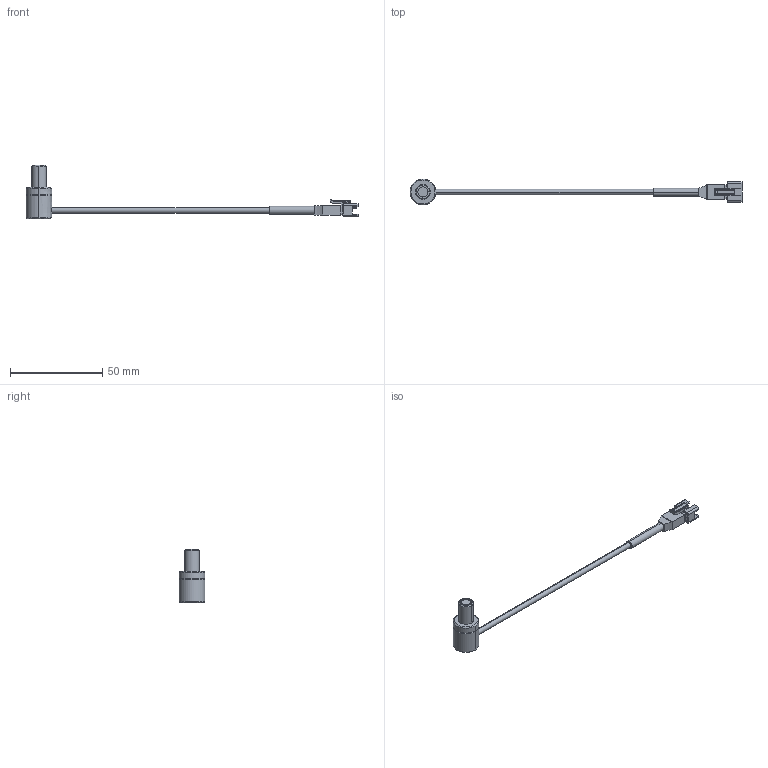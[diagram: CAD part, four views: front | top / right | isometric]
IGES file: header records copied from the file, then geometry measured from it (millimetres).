
Start section: 3D InterOp IGES (v. 2019 1.0.2), Spatial Corp. Copyright (c) 1999-2017.
Global section: file name: VSP-V24_DRAWING_3D.iges; native system: Spatial Corp.; preprocessor: 3D InterOp ACIS/IGES; author: Noname; organization: Noname; date: 20231110.104655; units: millimetre
Bounding box: 179.61 x 14 x 28.9 mm (x, y, z)
Surface area: 5453.9 mm2 (no closed solid volume)
Topology: 0 solids, 0 shells, 227 faces, 1122 edges, 1122 vertices
Faces by surface type: extrusion 140, revolution 83, bspline 4
